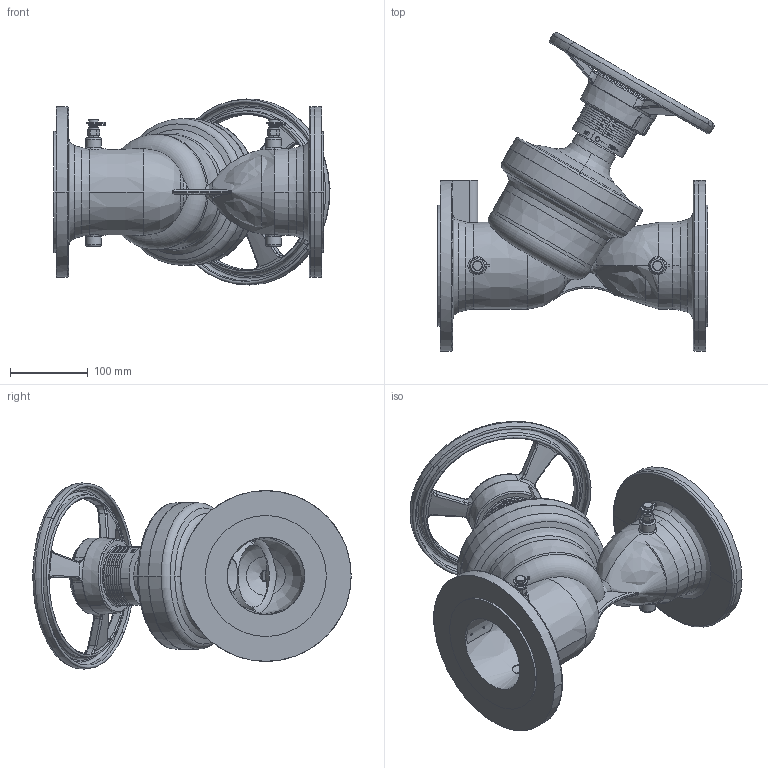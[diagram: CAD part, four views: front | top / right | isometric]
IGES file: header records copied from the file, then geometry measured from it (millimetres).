
Global section: file name: No Iges File Name specified; native system: AutoDesk Inventor R12.0; preprocessor: AutoDesk Inventor Iges Exporter R12.0; date: 20110225.150341; units: millimetre
Bounding box: 355.9 x 410.31 x 239.95 mm (x, y, z)
Volume: 3495018.9 mm3; surface area: 678269.2 mm2
Topology: 1 solids, 1 shells, 1075 faces, 2813 edges, 1797 vertices
Faces by surface type: plane 385, bspline 310, cylinder 135, revolution 131, torus 57, cone 57
